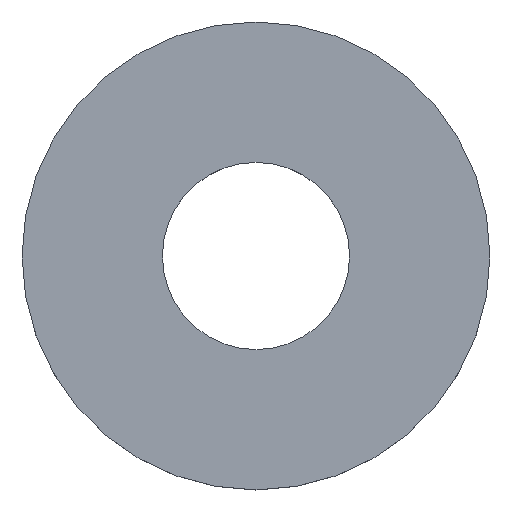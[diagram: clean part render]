
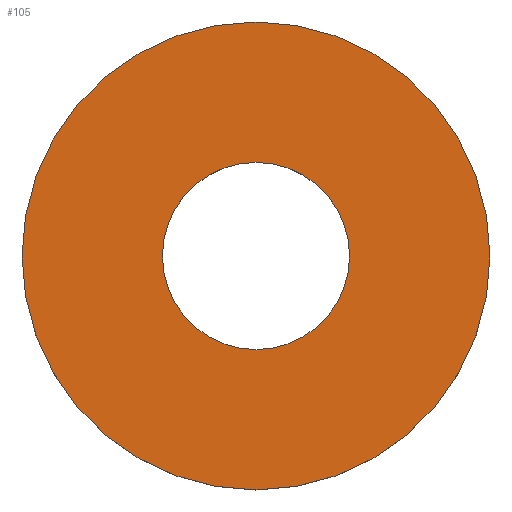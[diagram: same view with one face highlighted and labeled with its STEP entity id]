
A CAD part, top view. The second image highlights one B-rep face of the part: STEP entity #105.
In plain terms, the highlighted planar face has unit normal (0, 0, 1).
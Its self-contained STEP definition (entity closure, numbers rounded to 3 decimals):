
#21 = EDGE_CURVE('',#22,#22,#24,.T.);
#22 = VERTEX_POINT('',#23);
#23 = CARTESIAN_POINT('',(2.25,0.,-12.95));
#24 = SURFACE_CURVE('',#25,(#30,#42),.PCURVE_S1.);
#25 = CIRCLE('',#26,2.25);
#26 = AXIS2_PLACEMENT_3D('',#27,#28,#29);
#27 = CARTESIAN_POINT('',(0.,0.,-12.95));
#28 = DIRECTION('',(0.,0.,1.));
#29 = DIRECTION('',(1.,0.,-0.));
#30 = PCURVE('',#31,#36);
#31 = CYLINDRICAL_SURFACE('',#32,2.25);
#32 = AXIS2_PLACEMENT_3D('',#33,#34,#35);
#33 = CARTESIAN_POINT('',(0.,0.,-13.35));
#34 = DIRECTION('',(0.,0.,1.));
#35 = DIRECTION('',(1.,0.,-0.));
#36 = DEFINITIONAL_REPRESENTATION('',(#37),#41);
#37 = LINE('',#38,#39);
#38 = CARTESIAN_POINT('',(0.,0.4));
#39 = VECTOR('',#40,1.);
#40 = DIRECTION('',(1.,0.));
#41 = ( GEOMETRIC_REPRESENTATION_CONTEXT(2) 
PARAMETRIC_REPRESENTATION_CONTEXT() REPRESENTATION_CONTEXT('2D SPACE',''
  ) );
#42 = PCURVE('',#43,#48);
#43 = PLANE('',#44);
#44 = AXIS2_PLACEMENT_3D('',#45,#46,#47);
#45 = CARTESIAN_POINT('',(0.,0.,-12.95));
#46 = DIRECTION('',(0.,0.,1.));
#47 = DIRECTION('',(1.,0.,-0.));
#48 = DEFINITIONAL_REPRESENTATION('',(#49),#53);
#49 = CIRCLE('',#50,2.25);
#50 = AXIS2_PLACEMENT_2D('',#51,#52);
#51 = CARTESIAN_POINT('',(0.,0.));
#52 = DIRECTION('',(1.,0.));
#53 = ( GEOMETRIC_REPRESENTATION_CONTEXT(2) 
PARAMETRIC_REPRESENTATION_CONTEXT() REPRESENTATION_CONTEXT('2D SPACE',''
  ) );
#105 = ADVANCED_FACE('',(#106,#109),#43,.T.);
#106 = FACE_BOUND('',#107,.T.);
#107 = EDGE_LOOP('',(#108));
#108 = ORIENTED_EDGE('',*,*,#21,.T.);
#109 = FACE_BOUND('',#110,.T.);
#110 = EDGE_LOOP('',(#111));
#111 = ORIENTED_EDGE('',*,*,#112,.F.);
#112 = EDGE_CURVE('',#113,#113,#115,.T.);
#113 = VERTEX_POINT('',#114);
#114 = CARTESIAN_POINT('',(0.9,0.,-12.95));
#115 = SURFACE_CURVE('',#116,(#121,#128),.PCURVE_S1.);
#116 = CIRCLE('',#117,0.9);
#117 = AXIS2_PLACEMENT_3D('',#118,#119,#120);
#118 = CARTESIAN_POINT('',(0.,0.,-12.95));
#119 = DIRECTION('',(0.,0.,1.));
#120 = DIRECTION('',(1.,0.,-0.));
#121 = PCURVE('',#43,#122);
#122 = DEFINITIONAL_REPRESENTATION('',(#123),#127);
#123 = CIRCLE('',#124,0.9);
#124 = AXIS2_PLACEMENT_2D('',#125,#126);
#125 = CARTESIAN_POINT('',(0.,0.));
#126 = DIRECTION('',(1.,0.));
#127 = ( GEOMETRIC_REPRESENTATION_CONTEXT(2) 
PARAMETRIC_REPRESENTATION_CONTEXT() REPRESENTATION_CONTEXT('2D SPACE',''
  ) );
#128 = PCURVE('',#129,#134);
#129 = CYLINDRICAL_SURFACE('',#130,0.9);
#130 = AXIS2_PLACEMENT_3D('',#131,#132,#133);
#131 = CARTESIAN_POINT('',(0.,0.,-13.36));
#132 = DIRECTION('',(0.,0.,1.));
#133 = DIRECTION('',(1.,0.,-0.));
#134 = DEFINITIONAL_REPRESENTATION('',(#135),#139);
#135 = LINE('',#136,#137);
#136 = CARTESIAN_POINT('',(0.,0.41));
#137 = VECTOR('',#138,1.);
#138 = DIRECTION('',(1.,0.));
#139 = ( GEOMETRIC_REPRESENTATION_CONTEXT(2) 
PARAMETRIC_REPRESENTATION_CONTEXT() REPRESENTATION_CONTEXT('2D SPACE',''
  ) );
